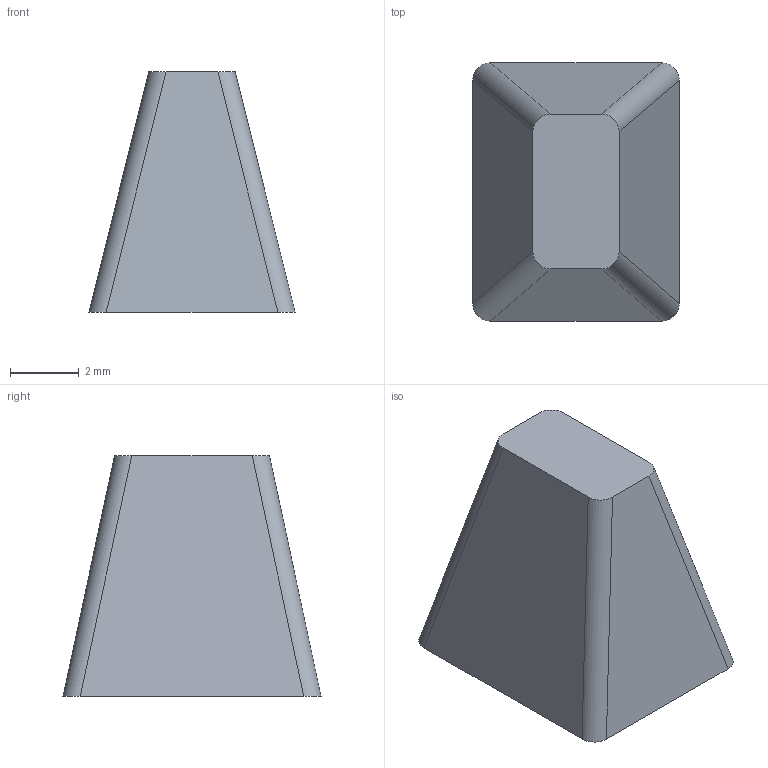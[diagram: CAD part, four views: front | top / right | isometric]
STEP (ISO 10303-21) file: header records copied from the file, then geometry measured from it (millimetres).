
FILE_DESCRIPTION(('Open CASCADE Model'),'2;1');
FILE_NAME('Open CASCADE Shape Model','2026-09-15T13:40:31',('Author'),( 'Open CASCADE'),'Open CASCADE STEP processor 7.7','Open CASCADE 7.7' ,'Unknown');
FILE_SCHEMA(('AUTOMOTIVE_DESIGN { 1 0 10303 214 1 1 1 1 }'));
Length unit declared in the file: millimetre
Products named in the file (1): COMPOUND
Bounding box: 6 x 7.5 x 6.99 mm (x, y, z)
Volume: 182.9 mm3; surface area: 197.3 mm2
Topology: 1 solids, 1 shells, 10 faces, 24 edges, 16 vertices
Faces by surface type: bspline 8, plane 2
Entity records: 654 total; most frequent: CARTESIAN_POINT 183, DIRECTION 74, ORIENTED_EDGE 48, PCURVE 48, DEFINITIONAL_REPRESENTATION 48, LINE 44, VECTOR 44, EDGE_CURVE 24
